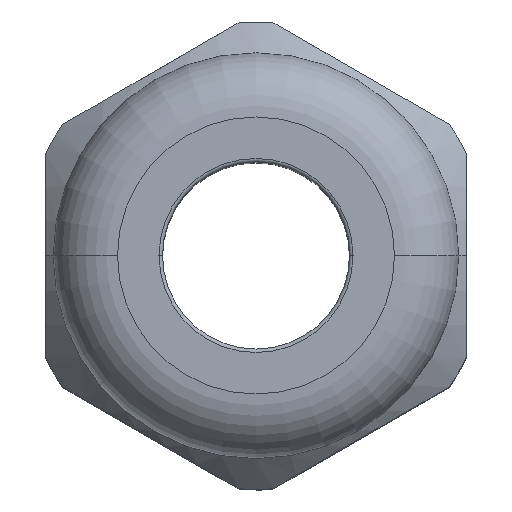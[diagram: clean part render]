
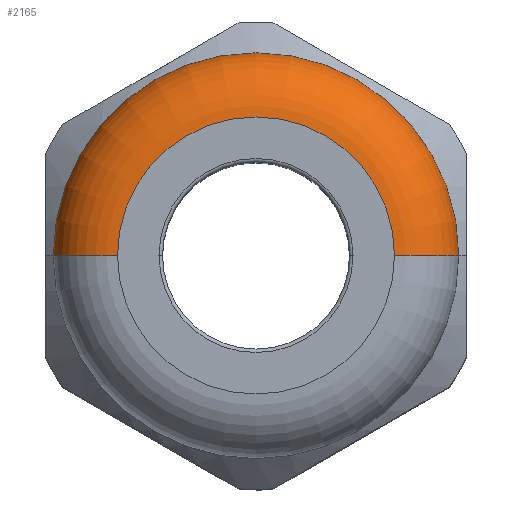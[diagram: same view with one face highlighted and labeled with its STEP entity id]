
A CAD part, top view. The second image highlights one B-rep face of the part: STEP entity #2165.
In plain terms, the highlighted toroidal (fillet/blend) face has major radius 11.85 mm and minor radius 5.5 mm.
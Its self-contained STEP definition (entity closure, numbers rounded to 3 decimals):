
#641 = CARTESIAN_POINT ( 'NONE',  ( 17.35, 0., 44.5 ) ) ;
#822 = CARTESIAN_POINT ( 'NONE',  ( 11.85, 0., 50. ) ) ;
#823 = CARTESIAN_POINT ( 'NONE',  ( -11.85, 0., 50. ) ) ;
#854 = CIRCLE ( 'NONE', #919, 5.5 ) ;
#855 = DIRECTION ( 'NONE',  ( -1., 0., 0. ) ) ;
#856 = DIRECTION ( 'NONE',  ( 0., 0., -1. ) ) ;
#857 = AXIS2_PLACEMENT_3D ( 'NONE', #859, #856, #855 ) ;
#858 = TOROIDAL_SURFACE ( 'NONE', #857, 11.85, 5.5 ) ;
#859 = CARTESIAN_POINT ( 'NONE',  ( 0., 0., 44.5 ) ) ;
#864 = FACE_OUTER_BOUND ( 'NONE', #2166, .T. ) ;
#900 = DIRECTION ( 'NONE',  ( 0., 0., -1. ) ) ;
#901 = DIRECTION ( 'NONE',  ( 0., -1., 0. ) ) ;
#902 = CARTESIAN_POINT ( 'NONE',  ( -11.85, 0., 44.5 ) ) ;
#903 = AXIS2_PLACEMENT_3D ( 'NONE', #902, #901, #900 ) ;
#904 = CIRCLE ( 'NONE', #903, 5.5 ) ;
#905 = DIRECTION ( 'NONE',  ( -1., 0., 0. ) ) ;
#906 = DIRECTION ( 'NONE',  ( 0., 0., -1. ) ) ;
#907 = CARTESIAN_POINT ( 'NONE',  ( 0., 0., 50. ) ) ;
#908 = AXIS2_PLACEMENT_3D ( 'NONE', #907, #906, #905 ) ;
#909 = CIRCLE ( 'NONE', #908, 11.85 ) ;
#910 = DIRECTION ( 'NONE',  ( -1., 0., 0. ) ) ;
#911 = DIRECTION ( 'NONE',  ( 0., 0., -1. ) ) ;
#912 = CARTESIAN_POINT ( 'NONE',  ( 0., 0., 44.5 ) ) ;
#913 = AXIS2_PLACEMENT_3D ( 'NONE', #912, #911, #910 ) ;
#914 = CIRCLE ( 'NONE', #913, 17.35 ) ;
#915 = CARTESIAN_POINT ( 'NONE',  ( -17.35, 0., 44.5 ) ) ;
#916 = DIRECTION ( 'NONE',  ( -1., 0., 0. ) ) ;
#917 = DIRECTION ( 'NONE',  ( 0., 1., 0. ) ) ;
#918 = CARTESIAN_POINT ( 'NONE',  ( 11.85, 0., 44.5 ) ) ;
#919 = AXIS2_PLACEMENT_3D ( 'NONE', #918, #917, #916 ) ;
#2080 = ORIENTED_EDGE ( 'NONE', *, *, #2172, .F. ) ;
#2083 = VERTEX_POINT ( 'NONE', #641 ) ;
#2150 = VERTEX_POINT ( 'NONE', #823 ) ;
#2151 = VERTEX_POINT ( 'NONE', #822 ) ;
#2152 = ORIENTED_EDGE ( 'NONE', *, *, #2167, .T. ) ;
#2156 = ORIENTED_EDGE ( 'NONE', *, *, #2171, .T. ) ;
#2165 = ADVANCED_FACE ( 'NONE', ( #864 ), #858, .T. ) ;
#2166 = EDGE_LOOP ( 'NONE', ( #2156, #2152, #2169, #2080 ) ) ;
#2167 = EDGE_CURVE ( 'NONE', #2151, #2083, #854, .T. ) ;
#2168 = VERTEX_POINT ( 'NONE', #915 ) ;
#2169 = ORIENTED_EDGE ( 'NONE', *, *, #2170, .F. ) ;
#2170 = EDGE_CURVE ( 'NONE', #2168, #2083, #914, .T. ) ;
#2171 = EDGE_CURVE ( 'NONE', #2150, #2151, #909, .T. ) ;
#2172 = EDGE_CURVE ( 'NONE', #2150, #2168, #904, .T. ) ;
